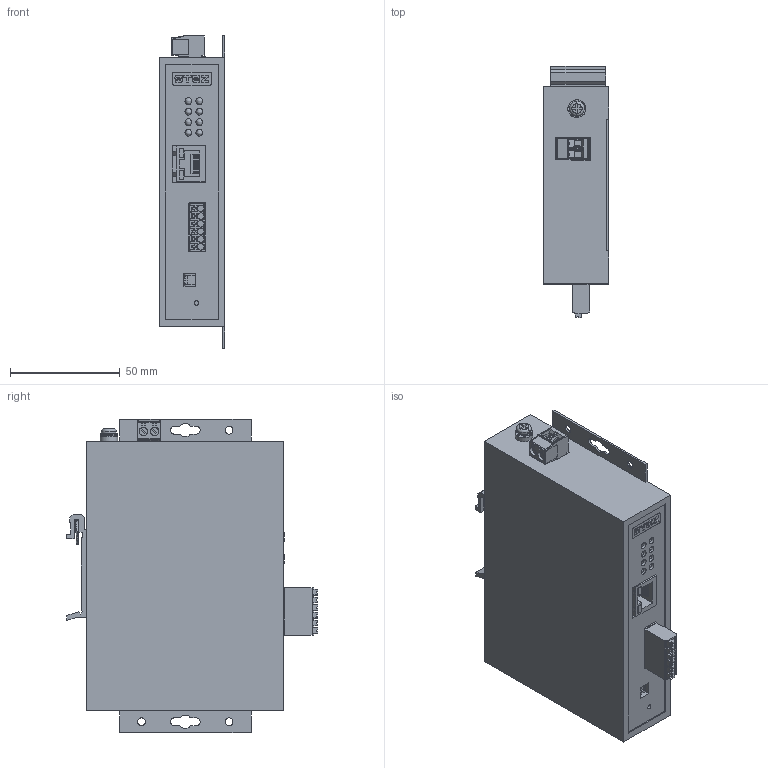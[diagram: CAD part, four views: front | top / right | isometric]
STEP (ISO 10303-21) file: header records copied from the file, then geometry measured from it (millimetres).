
FILE_DESCRIPTION(('TFLEX Exchange Step'),'2;1');
FILE_NAME('70210012_STEZ-GW-1ETH-2RS485.stp', '2025-08-28T09:22:22+03:00',('YLedovskikh'),('Unknown organisation'),'TFLEX Exchange 2023.2','T-FLEX CAD','Unknown authorisation');
FILE_SCHEMA( ('AUTOMOTIVE_DESIGN { 1 0 10303 214 1 1 1 1 }') );
Length unit declared in the file: millimetre
Products named in the file (1): Тело_1:1
Bounding box: 30 x 114.7 x 143 mm (x, y, z)
Volume: 337354.1 mm3; surface area: 48072.1 mm2
Topology: 1 solids, 3 shells, 1442 faces, 4224 edges, 2789 vertices
Faces by surface type: plane 991, cylinder 227, bspline 177, cone 24, extrusion 16, torus 4, sphere 3
Full cylindrical faces by diameter (mm): 0.9 x4, 1 x3, 1.3 x8, 2 x1, 3 x10, 3.1 x8, 3.25 x2, 3.5 x4, 3.821 x2, 4 x4, 4.4 x1, 6.8 x1, 8 x1
Entity records: 49948 total; most frequent: CARTESIAN_POINT 11839, ORIENTED_EDGE 8416, DIRECTION 6846, EDGE_CURVE 4208, VECTOR 3044, LINE 3028, VERTEX_POINT 2789, AXIS2_PLACEMENT_3D 1901
